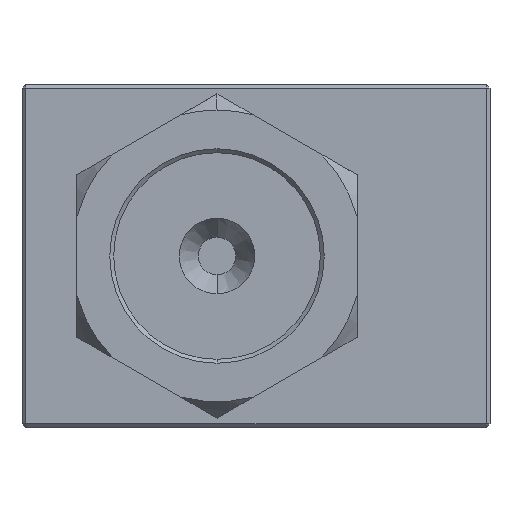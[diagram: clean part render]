
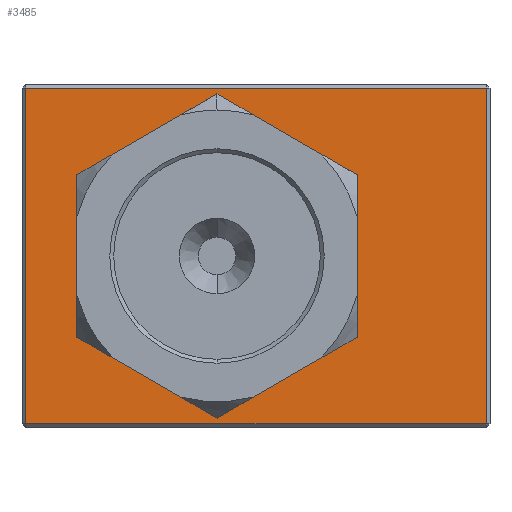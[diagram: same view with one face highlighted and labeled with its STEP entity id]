
A CAD part, front view. The second image highlights one B-rep face of the part: STEP entity #3485.
In plain terms, the highlighted planar face has unit normal (0, -1, 0).
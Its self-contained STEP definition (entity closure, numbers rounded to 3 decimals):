
#43 = EDGE_CURVE ( 'NONE', #2233, #1763, #408, .T. ) ;
#138 = CIRCLE ( 'NONE', #3148, 13.142 ) ;
#408 = LINE ( 'NONE', #3045, #983 ) ;
#582 = EDGE_CURVE ( 'NONE', #1763, #921, #3156, .T. ) ;
#635 = DIRECTION ( 'NONE',  ( 0., 0., -1. ) ) ;
#691 = AXIS2_PLACEMENT_3D ( 'NONE', #886, #2705, #3301 ) ;
#762 = CARTESIAN_POINT ( 'NONE',  ( -24.5, -37.5, 21.5 ) ) ;
#780 = DIRECTION ( 'NONE',  ( 1., 0., 0. ) ) ;
#886 = CARTESIAN_POINT ( 'NONE',  ( 0., -37.5, 0. ) ) ;
#921 = VERTEX_POINT ( 'NONE', #762 ) ;
#936 = VECTOR ( 'NONE', #780, 1000. ) ;
#983 = VECTOR ( 'NONE', #2770, 1000. ) ;
#1064 = AXIS2_PLACEMENT_3D ( 'NONE', #2980, #2395, #3285 ) ;
#1109 = VERTEX_POINT ( 'NONE', #2083 ) ;
#1121 = VERTEX_POINT ( 'NONE', #1553 ) ;
#1173 = FACE_OUTER_BOUND ( 'NONE', #1320, .T. ) ;
#1320 = EDGE_LOOP ( 'NONE', ( #3274, #2728, #1489, #1610 ) ) ;
#1322 = LINE ( 'NONE', #2192, #3018 ) ;
#1377 = CIRCLE ( 'NONE', #691, 13.142 ) ;
#1391 = CARTESIAN_POINT ( 'NONE',  ( -25., -37.5, 21.5 ) ) ;
#1455 = ORIENTED_EDGE ( 'NONE', *, *, #3397, .F. ) ;
#1489 = ORIENTED_EDGE ( 'NONE', *, *, #582, .T. ) ;
#1538 = FACE_BOUND ( 'NONE', #3640, .T. ) ;
#1553 = CARTESIAN_POINT ( 'NONE',  ( 0., -37.5, -13.142 ) ) ;
#1574 = CARTESIAN_POINT ( 'NONE',  ( 0., -37.5, 13.142 ) ) ;
#1610 = ORIENTED_EDGE ( 'NONE', *, *, #2794, .T. ) ;
#1763 = VERTEX_POINT ( 'NONE', #2823 ) ;
#2083 = CARTESIAN_POINT ( 'NONE',  ( -24.5, -37.5, -21.5 ) ) ;
#2125 = PLANE ( 'NONE',  #1064 ) ;
#2192 = CARTESIAN_POINT ( 'NONE',  ( -24.5, -37.5, 22. ) ) ;
#2233 = VERTEX_POINT ( 'NONE', #3429 ) ;
#2395 = DIRECTION ( 'NONE',  ( 0., 1., 0. ) ) ;
#2416 = CARTESIAN_POINT ( 'NONE',  ( 0., -37.5, 0. ) ) ;
#2423 = ORIENTED_EDGE ( 'NONE', *, *, #3493, .F. ) ;
#2434 = VERTEX_POINT ( 'NONE', #1574 ) ;
#2504 = VECTOR ( 'NONE', #2557, 1000. ) ;
#2553 = CARTESIAN_POINT ( 'NONE',  ( 35., -37.5, -21.5 ) ) ;
#2557 = DIRECTION ( 'NONE',  ( -1., 0., 0. ) ) ;
#2705 = DIRECTION ( 'NONE',  ( 0., -1., 0. ) ) ;
#2728 = ORIENTED_EDGE ( 'NONE', *, *, #43, .T. ) ;
#2770 = DIRECTION ( 'NONE',  ( 0., 0., 1. ) ) ;
#2794 = EDGE_CURVE ( 'NONE', #921, #1109, #1322, .T. ) ;
#2816 = LINE ( 'NONE', #2553, #936 ) ;
#2823 = CARTESIAN_POINT ( 'NONE',  ( 34.5, -37.5, 21.5 ) ) ;
#2980 = CARTESIAN_POINT ( 'NONE',  ( -25., -37.5, 22. ) ) ;
#3018 = VECTOR ( 'NONE', #3393, 1000. ) ;
#3045 = CARTESIAN_POINT ( 'NONE',  ( 34.5, -37.5, 22. ) ) ;
#3148 = AXIS2_PLACEMENT_3D ( 'NONE', #2416, #3230, #635 ) ;
#3156 = LINE ( 'NONE', #1391, #2504 ) ;
#3230 = DIRECTION ( 'NONE',  ( 0., -1., 0. ) ) ;
#3274 = ORIENTED_EDGE ( 'NONE', *, *, #3726, .T. ) ;
#3285 = DIRECTION ( 'NONE',  ( 0., 0., 1. ) ) ;
#3301 = DIRECTION ( 'NONE',  ( 0., 0., -1. ) ) ;
#3393 = DIRECTION ( 'NONE',  ( 0., 0., -1. ) ) ;
#3397 = EDGE_CURVE ( 'NONE', #1121, #2434, #138, .T. ) ;
#3429 = CARTESIAN_POINT ( 'NONE',  ( 34.5, -37.5, -21.5 ) ) ;
#3485 = ADVANCED_FACE ( 'NONE', ( #1173, #1538 ), #2125, .F. ) ;
#3493 = EDGE_CURVE ( 'NONE', #2434, #1121, #1377, .T. ) ;
#3640 = EDGE_LOOP ( 'NONE', ( #2423, #1455 ) ) ;
#3726 = EDGE_CURVE ( 'NONE', #1109, #2233, #2816, .T. ) ;
